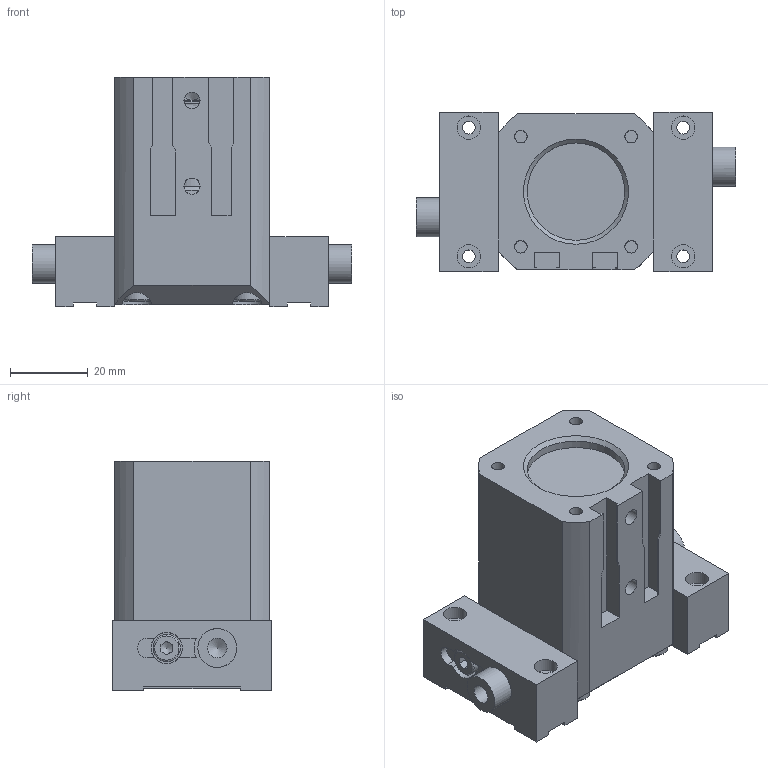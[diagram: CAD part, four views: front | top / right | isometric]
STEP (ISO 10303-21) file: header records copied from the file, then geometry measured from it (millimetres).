
FILE_DESCRIPTION((''),'2;1');
FILE_NAME('T:\CAD\Standard\Daten\3D-Datenbank\GP\GP050\step-Daten\G-GP050-l1-O+UB closed.stp','2012-12-06T14:14:40',('dirk'),(''),'Autodesk Inventor 2011','Autodesk Inventor 2011','');
FILE_SCHEMA(('AUTOMOTIVE_DESIGN { 1 0 10303 214 1 1 1 1 }'));
Length unit declared in the file: millimetre
Products named in the file (3): Baugruppe13; G-GP050-l1-O ohne-Backen; G-GP050-UB+B1-O-GÖ
Assembly tree (3 placements, depth 2):
  Baugruppe13
    G-GP050-l1-O ohne-Backen
    G-GP050-UB+B1-O-GÖ  x2
Bounding box: 82 x 41 x 59 mm (x, y, z)
Volume: 94128.6 mm3; surface area: 42822.1 mm2
Topology: 3 solids, 21 shells, 400 faces, 985 edges, 643 vertices
Faces by surface type: plane 226, cylinder 115, cone 34, torus 25
Full cylindrical faces by diameter (mm): 2.459 x2, 3.242 x10, 4 x6, 4.134 x2, 4.3 x4, 4.5 x2, 4.917 x1, 5 x2, 6 x5, 6.4 x1, 7 x6, 8 x8, 10 x8, 12 x8, 14 x1, 15 x2, 17 x2, 20 x1, 23 x2, 23.6 x2, 25 x1, 27 x1, 27.1 x2, 30 x5
Entity records: 9316 total; most frequent: CARTESIAN_POINT 1992, DIRECTION 1450, ORIENTED_EDGE 1208, EDGE_CURVE 604, AXIS2_PLACEMENT_3D 579, EDGE_LOOP 522, VERTEX_POINT 453, STYLED_ITEM 327
